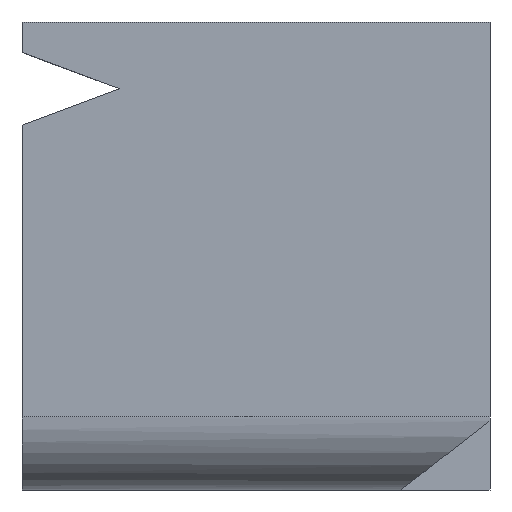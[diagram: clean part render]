
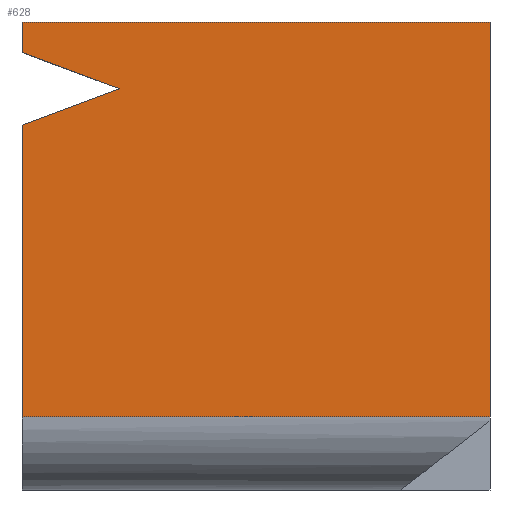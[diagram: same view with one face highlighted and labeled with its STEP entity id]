
A CAD part, left-side view. The second image highlights one B-rep face of the part: STEP entity #628.
In plain terms, the highlighted planar face has unit normal (-1, 0, 0).
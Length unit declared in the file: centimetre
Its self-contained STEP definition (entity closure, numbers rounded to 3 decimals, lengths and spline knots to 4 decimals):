
#6 = CARTESIAN_POINT ( 'NONE',  ( 0., 1000., 1000. ) ) ;
#13 = VECTOR ( 'NONE', #577, 100. ) ;
#19 = DIRECTION ( 'NONE',  ( 0., 0., -1. ) ) ;
#21 = VERTEX_POINT ( 'NONE', #816 ) ;
#57 = EDGE_CURVE ( 'NONE', #178, #21, #996, .T. ) ;
#77 = CARTESIAN_POINT ( 'NONE',  ( 0., 1000., 779.8911 ) ) ;
#89 = CARTESIAN_POINT ( 'NONE',  ( 0., 1000., 1000. ) ) ;
#120 = VERTEX_POINT ( 'NONE', #453 ) ;
#133 = VECTOR ( 'NONE', #289, 100. ) ;
#141 = CARTESIAN_POINT ( 'NONE',  ( 0., 0., 1000. ) ) ;
#158 = ORIENTED_EDGE ( 'NONE', *, *, #277, .T. ) ;
#166 = FACE_OUTER_BOUND ( 'NONE', #646, .T. ) ;
#178 = VERTEX_POINT ( 'NONE', #861 ) ;
#194 = VECTOR ( 'NONE', #301, 100. ) ;
#234 = LINE ( 'NONE', #293, #670 ) ;
#242 = VECTOR ( 'NONE', #662, 100. ) ;
#259 = DIRECTION ( 'NONE',  ( 1., 0., 0. ) ) ;
#277 = EDGE_CURVE ( 'NONE', #120, #902, #795, .T. ) ;
#283 = CARTESIAN_POINT ( 'NONE',  ( 0., 791.9462, 857.3908 ) ) ;
#289 = DIRECTION ( 'NONE',  ( 0., -1., 0. ) ) ;
#293 = CARTESIAN_POINT ( 'NONE',  ( 0., 1000., 1000. ) ) ;
#301 = DIRECTION ( 'NONE',  ( 0., 0., -1. ) ) ;
#320 = DIRECTION ( 'NONE',  ( 0., 0., -1. ) ) ;
#333 = EDGE_CURVE ( 'NONE', #751, #120, #814, .T. ) ;
#365 = CARTESIAN_POINT ( 'NONE',  ( 0., 1000., 1000. ) ) ;
#367 = CARTESIAN_POINT ( 'NONE',  ( 0., 1000., 934.8905 ) ) ;
#379 = CARTESIAN_POINT ( 'NONE',  ( 0., 0., 156.2235 ) ) ;
#403 = EDGE_CURVE ( 'NONE', #650, #500, #587, .T. ) ;
#405 = CARTESIAN_POINT ( 'NONE',  ( 0., 1000., 156.2235 ) ) ;
#422 = ORIENTED_EDGE ( 'NONE', *, *, #519, .F. ) ;
#424 = ORIENTED_EDGE ( 'NONE', *, *, #57, .F. ) ;
#453 = CARTESIAN_POINT ( 'NONE',  ( 0., 791.9462, 857.3908 ) ) ;
#483 = AXIS2_PLACEMENT_3D ( 'NONE', #89, #259, #19 ) ;
#500 = VERTEX_POINT ( 'NONE', #379 ) ;
#519 = EDGE_CURVE ( 'NONE', #21, #500, #1000, .T. ) ;
#520 = ORIENTED_EDGE ( 'NONE', *, *, #747, .T. ) ;
#527 = DIRECTION ( 'NONE',  ( 0., -0.937, -0.349 ) ) ;
#562 = CARTESIAN_POINT ( 'NONE',  ( 0., 1000., 779.8911 ) ) ;
#577 = DIRECTION ( 'NONE',  ( 0., 0.937, -0.349 ) ) ;
#587 = LINE ( 'NONE', #819, #242 ) ;
#588 = VECTOR ( 'NONE', #320, 100. ) ;
#628 = ADVANCED_FACE ( 'NONE', ( #166 ), #942, .F. ) ;
#646 = EDGE_LOOP ( 'NONE', ( #831, #158, #988, #903, #422, #424, #520 ) ) ;
#650 = VERTEX_POINT ( 'NONE', #405 ) ;
#662 = DIRECTION ( 'NONE',  ( 0., -1., 0. ) ) ;
#670 = VECTOR ( 'NONE', #924, 100. ) ;
#707 = LINE ( 'NONE', #6, #588 ) ;
#747 = EDGE_CURVE ( 'NONE', #178, #751, #707, .T. ) ;
#751 = VERTEX_POINT ( 'NONE', #367 ) ;
#795 = LINE ( 'NONE', #562, #13 ) ;
#814 = LINE ( 'NONE', #283, #860 ) ;
#816 = CARTESIAN_POINT ( 'NONE',  ( 0., 0., 1000. ) ) ;
#819 = CARTESIAN_POINT ( 'NONE',  ( 0., 1000., 156.2235 ) ) ;
#831 = ORIENTED_EDGE ( 'NONE', *, *, #333, .T. ) ;
#860 = VECTOR ( 'NONE', #527, 100. ) ;
#861 = CARTESIAN_POINT ( 'NONE',  ( 0., 1000., 1000. ) ) ;
#902 = VERTEX_POINT ( 'NONE', #77 ) ;
#903 = ORIENTED_EDGE ( 'NONE', *, *, #403, .T. ) ;
#924 = DIRECTION ( 'NONE',  ( 0., 0., -1. ) ) ;
#942 = PLANE ( 'NONE',  #483 ) ;
#951 = EDGE_CURVE ( 'NONE', #902, #650, #234, .T. ) ;
#988 = ORIENTED_EDGE ( 'NONE', *, *, #951, .T. ) ;
#996 = LINE ( 'NONE', #365, #133 ) ;
#1000 = LINE ( 'NONE', #141, #194 ) ;
